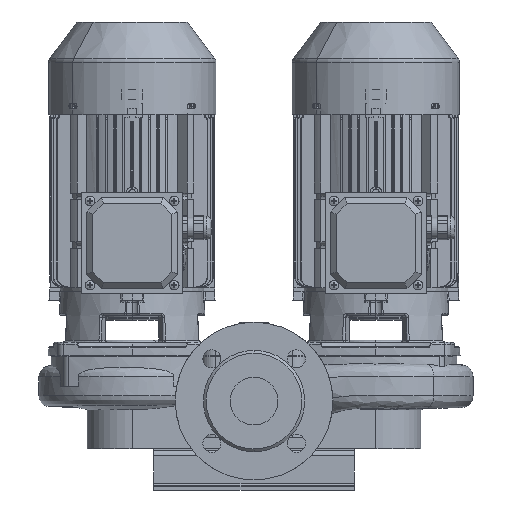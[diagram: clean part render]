
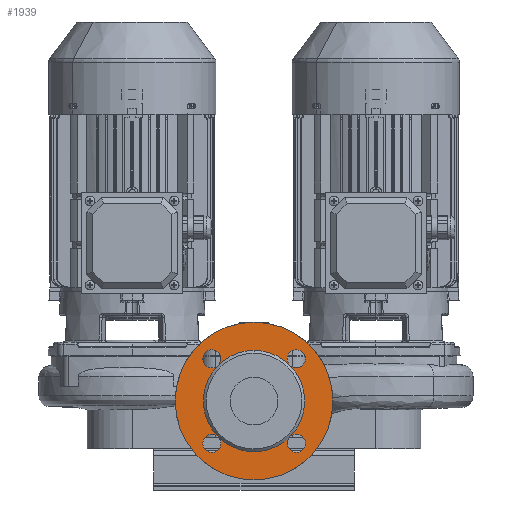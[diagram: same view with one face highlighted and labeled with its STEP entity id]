
A CAD part, front view. The second image highlights one B-rep face of the part: STEP entity #1939.
In plain terms, the highlighted planar face has unit normal (0, -1, 0) as drawn and (-1, 0, 0) by its records, which use the part's own axes.
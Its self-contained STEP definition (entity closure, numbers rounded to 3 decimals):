
#1939=ADVANCED_FACE('',(#3626,#3627),#3628,.T.);
#1983=EDGE_CURVE('',#3695,#3696,#3697,.T.);
#1985=EDGE_CURVE('',#3699,#3695,#3700,.T.);
#1987=EDGE_CURVE('',#3702,#3699,#3703,.T.);
#1991=EDGE_CURVE('',#3709,#3710,#3711,.T.);
#1995=EDGE_CURVE('',#3717,#3718,#3719,.T.);
#1999=EDGE_CURVE('',#3725,#3726,#3727,.T.);
#2003=EDGE_CURVE('',#3733,#3734,#3735,.T.);
#2007=EDGE_CURVE('',#3741,#3742,#3743,.T.);
#2199=EDGE_CURVE('',#3742,#3741,#4026,.T.);
#2203=EDGE_CURVE('',#3699,#3733,#4030,.T.);
#2205=EDGE_CURVE('',#3734,#3699,#4032,.T.);
#2207=EDGE_CURVE('',#3695,#3725,#4034,.T.);
#2209=EDGE_CURVE('',#3726,#3695,#4036,.T.);
#2211=EDGE_CURVE('',#4038,#3717,#4039,.T.);
#2213=EDGE_CURVE('',#3718,#4038,#4041,.T.);
#2215=EDGE_CURVE('',#4043,#3709,#4044,.T.);
#2217=EDGE_CURVE('',#3710,#4043,#4046,.T.);
#2219=EDGE_CURVE('',#3696,#4038,#4048,.T.);
#2221=EDGE_CURVE('',#4038,#4043,#4050,.T.);
#2223=EDGE_CURVE('',#4043,#3702,#4052,.T.);
#3626=FACE_OUTER_BOUND('',#8748,.T.);
#3627=FACE_BOUND('',#8749,.T.);
#3628=PLANE('',#8750);
#3695=VERTEX_POINT('',#10133);
#3696=VERTEX_POINT('',#10134);
#3697=CIRCLE('',#10135,53.0);
#3699=VERTEX_POINT('',#10138);
#3700=CIRCLE('',#10139,53.0);
#3702=VERTEX_POINT('',#10142);
#3703=CIRCLE('',#10143,53.0);
#3709=VERTEX_POINT('',#10151);
#3710=VERTEX_POINT('',#10152);
#3711=CIRCLE('',#10153,9.5);
#3717=VERTEX_POINT('',#10161);
#3718=VERTEX_POINT('',#10162);
#3719=CIRCLE('',#10163,9.5);
#3725=VERTEX_POINT('',#10171);
#3726=VERTEX_POINT('',#10172);
#3727=CIRCLE('',#10173,9.5);
#3733=VERTEX_POINT('',#10181);
#3734=VERTEX_POINT('',#10182);
#3735=CIRCLE('',#10183,9.5);
#3741=VERTEX_POINT('',#10191);
#3742=VERTEX_POINT('',#10192);
#3743=CIRCLE('',#10193,82.5);
#4026=CIRCLE('',#10652,82.5);
#4030=CIRCLE('',#10658,9.5);
#4032=CIRCLE('',#10661,9.5);
#4034=CIRCLE('',#10664,9.5);
#4036=CIRCLE('',#10667,9.5);
#4038=VERTEX_POINT('',#10670);
#4039=CIRCLE('',#10671,9.5);
#4041=CIRCLE('',#10674,9.5);
#4043=VERTEX_POINT('',#10677);
#4044=CIRCLE('',#10678,9.5);
#4046=CIRCLE('',#10681,9.5);
#4048=CIRCLE('',#10684,53.0);
#4050=CIRCLE('',#10687,53.0);
#4052=CIRCLE('',#10690,53.0);
#8748=EDGE_LOOP('',(#17648,#17649));
#8749=EDGE_LOOP('',(#17650,#17651,#17652,#17653,#17654,#17655,#17656,#17657,#17658,#17659,#17660,#17661,#17662,#17663,#17664,#17665,#17666,#17667));
#8750=AXIS2_PLACEMENT_3D('',#17668,#17669,#17670);
#10133=CARTESIAN_POINT('',(-157.0,37.477,21.977));
#10134=CARTESIAN_POINT('',(-157.0,0.,37.5));
#10135=AXIS2_PLACEMENT_3D('',#17830,#17831,#17832);
#10138=CARTESIAN_POINT('',(-157.0,37.477,-52.977));
#10139=AXIS2_PLACEMENT_3D('',#17833,#17834,#17835);
#10142=CARTESIAN_POINT('',(-157.0,0.,-68.5));
#10143=AXIS2_PLACEMENT_3D('',#17836,#17837,#17838);
#10151=CARTESIAN_POINT('',(-157.0,-49.553,-51.85));
#10152=CARTESIAN_POINT('',(-157.0,-38.835,-67.538));
#10153=AXIS2_PLACEMENT_3D('',#17842,#17843,#17844);
#10161=CARTESIAN_POINT('',(-157.,-36.35,34.053));
#10162=CARTESIAN_POINT('',(-157.,-52.038,23.335));
#10163=AXIS2_PLACEMENT_3D('',#17848,#17849,#17850);
#10171=CARTESIAN_POINT('',(-157.,49.553,20.85));
#10172=CARTESIAN_POINT('',(-157.,38.835,36.538));
#10173=AXIS2_PLACEMENT_3D('',#17854,#17855,#17856);
#10181=CARTESIAN_POINT('',(-157.0,36.35,-65.053));
#10182=CARTESIAN_POINT('',(-157.0,52.038,-54.335));
#10183=AXIS2_PLACEMENT_3D('',#17860,#17861,#17862);
#10191=CARTESIAN_POINT('',(-157.0,0.,-98.0));
#10192=CARTESIAN_POINT('',(-157.0,0.,67.0));
#10193=AXIS2_PLACEMENT_3D('',#17866,#17867,#17868);
#10652=AXIS2_PLACEMENT_3D('',#18106,#18107,#18108);
#10658=AXIS2_PLACEMENT_3D('',#18112,#18113,#18114);
#10661=AXIS2_PLACEMENT_3D('',#18115,#18116,#18117);
#10664=AXIS2_PLACEMENT_3D('',#18118,#18119,#18120);
#10667=AXIS2_PLACEMENT_3D('',#18121,#18122,#18123);
#10670=CARTESIAN_POINT('',(-157.0,-37.477,21.977));
#10671=AXIS2_PLACEMENT_3D('',#18124,#18125,#18126);
#10674=AXIS2_PLACEMENT_3D('',#18127,#18128,#18129);
#10677=CARTESIAN_POINT('',(-157.0,-37.477,-52.977));
#10678=AXIS2_PLACEMENT_3D('',#18130,#18131,#18132);
#10681=AXIS2_PLACEMENT_3D('',#18133,#18134,#18135);
#10684=AXIS2_PLACEMENT_3D('',#18136,#18137,#18138);
#10687=AXIS2_PLACEMENT_3D('',#18139,#18140,#18141);
#10690=AXIS2_PLACEMENT_3D('',#18142,#18143,#18144);
#17648=ORIENTED_EDGE('',*,*,#2199,.F.);
#17649=ORIENTED_EDGE('',*,*,#2007,.F.);
#17650=ORIENTED_EDGE('',*,*,#1983,.T.);
#17651=ORIENTED_EDGE('',*,*,#2219,.T.);
#17652=ORIENTED_EDGE('',*,*,#2211,.T.);
#17653=ORIENTED_EDGE('',*,*,#1995,.T.);
#17654=ORIENTED_EDGE('',*,*,#2213,.T.);
#17655=ORIENTED_EDGE('',*,*,#2221,.T.);
#17656=ORIENTED_EDGE('',*,*,#2215,.T.);
#17657=ORIENTED_EDGE('',*,*,#1991,.T.);
#17658=ORIENTED_EDGE('',*,*,#2217,.T.);
#17659=ORIENTED_EDGE('',*,*,#2223,.T.);
#17660=ORIENTED_EDGE('',*,*,#1987,.T.);
#17661=ORIENTED_EDGE('',*,*,#2203,.T.);
#17662=ORIENTED_EDGE('',*,*,#2003,.T.);
#17663=ORIENTED_EDGE('',*,*,#2205,.T.);
#17664=ORIENTED_EDGE('',*,*,#1985,.T.);
#17665=ORIENTED_EDGE('',*,*,#2207,.T.);
#17666=ORIENTED_EDGE('',*,*,#1999,.T.);
#17667=ORIENTED_EDGE('',*,*,#2209,.T.);
#17668=CARTESIAN_POINT('',(-157.0,0.,-83.25));
#17669=DIRECTION('',(-1.0,0.0,0.0));
#17670=DIRECTION('',(0.0,0.0,1.0));
#17830=CARTESIAN_POINT('',(-157.0,0.,-15.5));
#17831=DIRECTION('',(1.0,0.0,0.0));
#17832=DIRECTION('',(0.0,0.0,-1.0));
#17833=CARTESIAN_POINT('',(-157.0,0.,-15.5));
#17834=DIRECTION('',(1.0,0.0,0.0));
#17835=DIRECTION('',(0.0,0.0,-1.0));
#17836=CARTESIAN_POINT('',(-157.0,0.,-15.5));
#17837=DIRECTION('',(1.0,0.0,0.0));
#17838=DIRECTION('',(0.0,0.0,-1.0));
#17842=CARTESIAN_POINT('',(-157.0,-44.194,-59.694));
#17843=DIRECTION('',(1.0,0.0,0.0));
#17844=DIRECTION('',(0.0,-0.564,0.826));
#17848=CARTESIAN_POINT('',(-157.,-44.194,28.694));
#17849=DIRECTION('',(1.0,0.0,-0.0));
#17850=DIRECTION('',(0.0,0.826,0.564));
#17854=CARTESIAN_POINT('',(-157.,44.194,28.694));
#17855=DIRECTION('',(1.0,0.0,0.0));
#17856=DIRECTION('',(0.0,0.564,-0.826));
#17860=CARTESIAN_POINT('',(-157.0,44.194,-59.694));
#17861=DIRECTION('',(1.0,0.0,0.0));
#17862=DIRECTION('',(0.0,-0.826,-0.564));
#17866=CARTESIAN_POINT('',(-157.0,0.,-15.5));
#17867=DIRECTION('',(1.0,0.0,0.0));
#17868=DIRECTION('',(0.0,0.0,-1.0));
#18106=CARTESIAN_POINT('',(-157.0,0.,-15.5));
#18107=DIRECTION('',(1.0,0.0,0.0));
#18108=DIRECTION('',(0.0,0.0,-1.0));
#18112=CARTESIAN_POINT('',(-157.0,44.194,-59.694));
#18113=DIRECTION('',(1.0,0.0,0.0));
#18114=DIRECTION('',(0.0,-0.826,-0.564));
#18115=CARTESIAN_POINT('',(-157.0,44.194,-59.694));
#18116=DIRECTION('',(1.0,0.0,0.0));
#18117=DIRECTION('',(0.0,-0.826,-0.564));
#18118=CARTESIAN_POINT('',(-157.,44.194,28.694));
#18119=DIRECTION('',(1.0,0.0,0.0));
#18120=DIRECTION('',(0.0,0.564,-0.826));
#18121=CARTESIAN_POINT('',(-157.,44.194,28.694));
#18122=DIRECTION('',(1.0,0.0,0.0));
#18123=DIRECTION('',(0.0,0.564,-0.826));
#18124=CARTESIAN_POINT('',(-157.,-44.194,28.694));
#18125=DIRECTION('',(1.0,0.0,-0.0));
#18126=DIRECTION('',(0.0,0.826,0.564));
#18127=CARTESIAN_POINT('',(-157.,-44.194,28.694));
#18128=DIRECTION('',(1.0,0.0,-0.0));
#18129=DIRECTION('',(0.0,0.826,0.564));
#18130=CARTESIAN_POINT('',(-157.0,-44.194,-59.694));
#18131=DIRECTION('',(1.0,0.0,0.0));
#18132=DIRECTION('',(0.0,-0.564,0.826));
#18133=CARTESIAN_POINT('',(-157.0,-44.194,-59.694));
#18134=DIRECTION('',(1.0,0.0,0.0));
#18135=DIRECTION('',(0.0,-0.564,0.826));
#18136=CARTESIAN_POINT('',(-157.0,0.,-15.5));
#18137=DIRECTION('',(1.0,0.0,0.0));
#18138=DIRECTION('',(0.0,0.0,-1.0));
#18139=CARTESIAN_POINT('',(-157.0,0.,-15.5));
#18140=DIRECTION('',(1.0,0.0,0.0));
#18141=DIRECTION('',(0.0,0.0,-1.0));
#18142=CARTESIAN_POINT('',(-157.0,0.,-15.5));
#18143=DIRECTION('',(1.0,0.0,0.0));
#18144=DIRECTION('',(0.0,0.0,-1.0));
